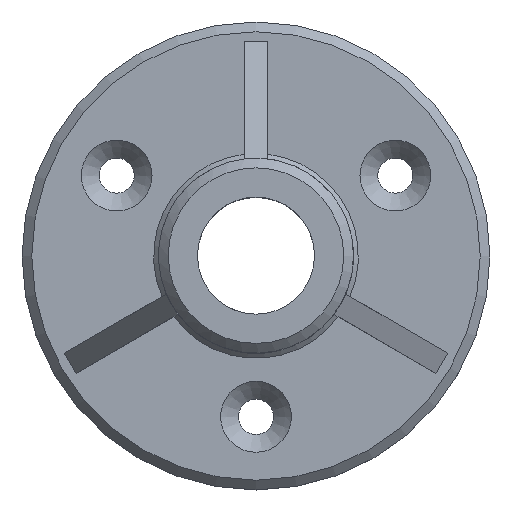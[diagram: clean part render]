
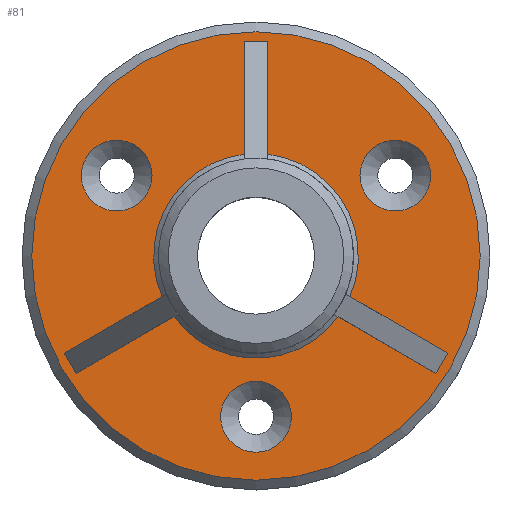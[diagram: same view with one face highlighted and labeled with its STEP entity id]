
A CAD part, top view. The second image highlights one B-rep face of the part: STEP entity #81.
In plain terms, the highlighted planar face has unit normal (0, 0, 1).
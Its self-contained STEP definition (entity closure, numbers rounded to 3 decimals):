
#66=PLANE('',#627);
#81=ADVANCED_FACE('',(#209,#210,#211,#212,#213),#66,.T.);
#134=LINE('',#890,#159);
#135=LINE('',#895,#160);
#136=LINE('',#897,#161);
#137=LINE('',#899,#162);
#138=LINE('',#903,#163);
#139=LINE('',#905,#164);
#140=LINE('',#907,#165);
#141=LINE('',#911,#166);
#142=LINE('',#913,#167);
#159=VECTOR('',#708,1.);
#160=VECTOR('',#711,1.);
#161=VECTOR('',#712,1.);
#162=VECTOR('',#713,1.);
#163=VECTOR('',#716,1.);
#164=VECTOR('',#717,1.);
#165=VECTOR('',#718,1.);
#166=VECTOR('',#721,1.);
#167=VECTOR('',#722,1.);
#182=CIRCLE('',#620,13.605);
#183=CIRCLE('',#621,13.605);
#184=CIRCLE('',#622,13.605);
#185=CIRCLE('',#623,39.375);
#186=CIRCLE('',#624,39.375);
#187=CIRCLE('',#625,39.375);
#188=CIRCLE('',#626,86.25);
#209=FACE_BOUND('',#257,.T.);
#210=FACE_BOUND('',#258,.T.);
#211=FACE_BOUND('',#259,.T.);
#212=FACE_BOUND('',#260,.T.);
#213=FACE_BOUND('',#261,.T.);
#257=EDGE_LOOP('',(#333));
#258=EDGE_LOOP('',(#334));
#259=EDGE_LOOP('',(#335));
#260=EDGE_LOOP('',(#336,#337,#338,#339,#340,#341,#342,#343,#344,#345,#346,
#347));
#261=EDGE_LOOP('',(#348));
#333=ORIENTED_EDGE('',*,*,#535,.T.);
#334=ORIENTED_EDGE('',*,*,#536,.T.);
#335=ORIENTED_EDGE('',*,*,#537,.T.);
#336=ORIENTED_EDGE('',*,*,#538,.F.);
#337=ORIENTED_EDGE('',*,*,#539,.T.);
#338=ORIENTED_EDGE('',*,*,#540,.T.);
#339=ORIENTED_EDGE('',*,*,#541,.F.);
#340=ORIENTED_EDGE('',*,*,#542,.F.);
#341=ORIENTED_EDGE('',*,*,#543,.T.);
#342=ORIENTED_EDGE('',*,*,#544,.T.);
#343=ORIENTED_EDGE('',*,*,#545,.F.);
#344=ORIENTED_EDGE('',*,*,#546,.F.);
#345=ORIENTED_EDGE('',*,*,#547,.T.);
#346=ORIENTED_EDGE('',*,*,#548,.T.);
#347=ORIENTED_EDGE('',*,*,#549,.T.);
#348=ORIENTED_EDGE('',*,*,#550,.T.);
#479=VERTEX_POINT('',#885);
#480=VERTEX_POINT('',#887);
#481=VERTEX_POINT('',#889);
#482=VERTEX_POINT('',#891);
#483=VERTEX_POINT('',#892);
#484=VERTEX_POINT('',#894);
#485=VERTEX_POINT('',#896);
#486=VERTEX_POINT('',#898);
#487=VERTEX_POINT('',#900);
#488=VERTEX_POINT('',#902);
#489=VERTEX_POINT('',#904);
#490=VERTEX_POINT('',#906);
#491=VERTEX_POINT('',#908);
#492=VERTEX_POINT('',#910);
#493=VERTEX_POINT('',#912);
#494=VERTEX_POINT('',#915);
#535=EDGE_CURVE('',#479,#479,#182,.T.);
#536=EDGE_CURVE('',#480,#480,#183,.T.);
#537=EDGE_CURVE('',#481,#481,#184,.T.);
#538=EDGE_CURVE('',#482,#483,#134,.T.);
#539=EDGE_CURVE('',#482,#484,#185,.T.);
#540=EDGE_CURVE('',#484,#485,#135,.T.);
#541=EDGE_CURVE('',#486,#485,#136,.T.);
#542=EDGE_CURVE('',#487,#486,#137,.T.);
#543=EDGE_CURVE('',#487,#488,#186,.T.);
#544=EDGE_CURVE('',#488,#489,#138,.T.);
#545=EDGE_CURVE('',#490,#489,#139,.T.);
#546=EDGE_CURVE('',#491,#490,#140,.T.);
#547=EDGE_CURVE('',#491,#492,#187,.T.);
#548=EDGE_CURVE('',#492,#493,#141,.T.);
#549=EDGE_CURVE('',#493,#483,#142,.T.);
#550=EDGE_CURVE('',#494,#494,#188,.T.);
#620=AXIS2_PLACEMENT_3D('',#884,#702,#703);
#621=AXIS2_PLACEMENT_3D('',#886,#704,#705);
#622=AXIS2_PLACEMENT_3D('',#888,#706,#707);
#623=AXIS2_PLACEMENT_3D('',#893,#709,#710);
#624=AXIS2_PLACEMENT_3D('',#901,#714,#715);
#625=AXIS2_PLACEMENT_3D('',#909,#719,#720);
#626=AXIS2_PLACEMENT_3D('',#914,#723,#724);
#627=AXIS2_PLACEMENT_3D('',#916,#725,#726);
#702=DIRECTION('',(0.,0.,-1.));
#703=DIRECTION('',(-1.,0.,0.));
#704=DIRECTION('',(0.,0.,-1.));
#705=DIRECTION('',(-1.,0.,0.));
#706=DIRECTION('',(0.,0.,-1.));
#707=DIRECTION('',(-1.,0.,0.));
#708=DIRECTION('',(0.,1.,0.));
#709=DIRECTION('',(0.,0.,-1.));
#710=DIRECTION('',(1.,0.,0.));
#711=DIRECTION('',(0.866,-0.5,0.));
#712=DIRECTION('',(0.5,0.866,0.));
#713=DIRECTION('',(0.866,-0.5,0.));
#714=DIRECTION('',(0.,0.,-1.));
#715=DIRECTION('',(1.,0.,0.));
#716=DIRECTION('',(-0.866,-0.5,0.));
#717=DIRECTION('',(0.5,-0.866,0.));
#718=DIRECTION('',(-0.866,-0.5,0.));
#719=DIRECTION('',(0.,0.,-1.));
#720=DIRECTION('',(1.,0.,0.));
#721=DIRECTION('',(0.,1.,0.));
#722=DIRECTION('',(1.,0.,0.));
#723=DIRECTION('',(0.,0.,1.));
#724=DIRECTION('',(1.,0.,0.));
#725=DIRECTION('',(0.,0.,1.));
#726=DIRECTION('',(1.,0.,0.));
#884=CARTESIAN_POINT('',(0.,-61.875,15.));
#885=CARTESIAN_POINT('',(-13.605,-61.875,15.));
#886=CARTESIAN_POINT('',(53.585,30.937,15.));
#887=CARTESIAN_POINT('',(39.98,30.937,15.));
#888=CARTESIAN_POINT('',(-53.585,30.938,15.));
#889=CARTESIAN_POINT('',(-67.19,30.938,15.));
#890=CARTESIAN_POINT('',(4.5,30.,15.));
#891=CARTESIAN_POINT('',(4.5,39.117,15.));
#892=CARTESIAN_POINT('',(4.5,82.5,15.));
#893=CARTESIAN_POINT('',(0.,0.,15.));
#894=CARTESIAN_POINT('',(36.126,-15.661,15.));
#895=CARTESIAN_POINT('',(28.231,-11.103,15.));
#896=CARTESIAN_POINT('',(73.697,-37.353,15.));
#897=CARTESIAN_POINT('',(69.197,-45.147,15.));
#898=CARTESIAN_POINT('',(69.197,-45.147,15.));
#899=CARTESIAN_POINT('',(23.731,-18.897,15.));
#900=CARTESIAN_POINT('',(31.626,-23.456,15.));
#901=CARTESIAN_POINT('',(0.,0.,15.));
#902=CARTESIAN_POINT('',(-31.626,-23.456,15.));
#903=CARTESIAN_POINT('',(-23.731,-18.897,15.));
#904=CARTESIAN_POINT('',(-69.197,-45.147,15.));
#905=CARTESIAN_POINT('',(-73.697,-37.353,15.));
#906=CARTESIAN_POINT('',(-73.697,-37.353,15.));
#907=CARTESIAN_POINT('',(-28.231,-11.103,15.));
#908=CARTESIAN_POINT('',(-36.126,-15.661,15.));
#909=CARTESIAN_POINT('',(0.,0.,15.));
#910=CARTESIAN_POINT('',(-4.5,39.117,15.));
#911=CARTESIAN_POINT('',(-4.5,30.,15.));
#912=CARTESIAN_POINT('',(-4.5,82.5,15.));
#913=CARTESIAN_POINT('',(4.5,82.5,15.));
#914=CARTESIAN_POINT('',(0.,0.,15.));
#915=CARTESIAN_POINT('',(86.25,0.,15.));
#916=CARTESIAN_POINT('',(90.,0.,15.));
